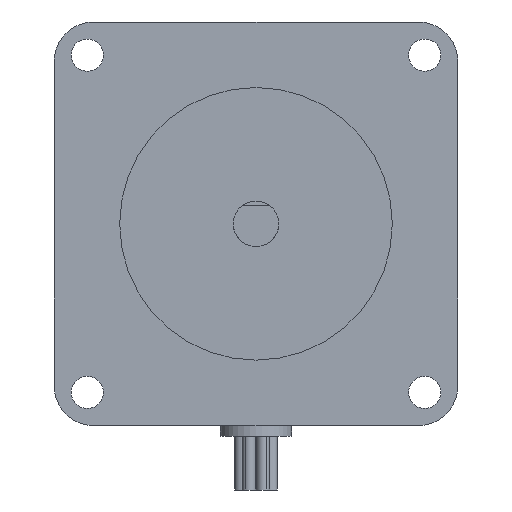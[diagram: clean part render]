
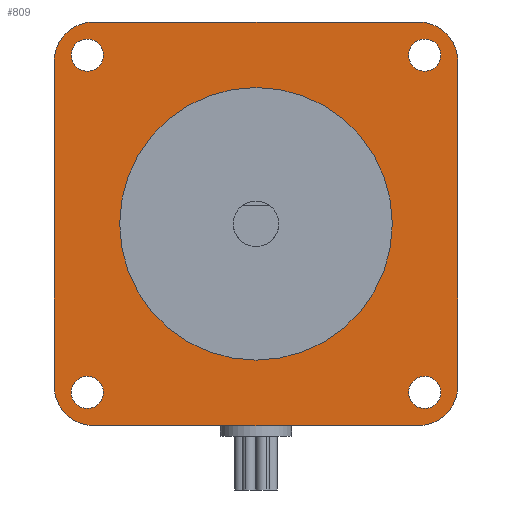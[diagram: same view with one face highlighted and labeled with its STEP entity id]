
A CAD part, front view. The second image highlights one B-rep face of the part: STEP entity #809.
In plain terms, the highlighted planar face has unit normal (0, -1, 0).
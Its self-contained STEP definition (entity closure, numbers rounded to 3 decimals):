
#150=CARTESIAN_POINT('POINT172396',(19.05,0.,0.));
#151=VERTEX_POINT('VERTEX172396',#150);
#158=CARTESIAN_POINT('POINT172397',(-19.05,0.,
   0.));
#159=VERTEX_POINT('VERTEX172397',#158);
#160=CARTESIAN_POINT('POS291731',(0.,0.,0.));
#161=DIRECTION('DIR435070',(0.,1.,0.));
#162=DIRECTION('DIR435071',(1.,0.,0.));
#163=AXIS2_PLACEMENT_3D('AXIS143340',#160,#161,#162);
#164=CIRCLE('ELLIPSE66097',#163,19.05);
#165=EDGE_CURVE('EDGE267006',#159,#151,#164,.T.);
#185=EDGE_CURVE('EDGE267008',#151,#159,#164,.T.);
#190=CARTESIAN_POINT('POINT172398',(-23.57,0.,
   -25.82));
#191=VERTEX_POINT('VERTEX172398',#190);
#200=CARTESIAN_POINT('POINT172400',(-23.57,0.,
   -21.32));
#201=VERTEX_POINT('VERTEX172400',#200);
#202=CARTESIAN_POINT('POS291735',(-23.57,0.,
   -23.57));
#203=DIRECTION('DIR435076',(0.,1.,0.));
#204=DIRECTION('DIR435077',(0.,0.,-1.));
#205=AXIS2_PLACEMENT_3D('AXIS143342',#202,#203,#204);
#206=CIRCLE('ELLIPSE66098',#205,2.25);
#207=EDGE_CURVE('EDGE267010',#201,#191,#206,.T.);
#236=EDGE_CURVE('EDGE267014',#191,#201,#206,.T.);
#241=CARTESIAN_POINT('POINT172402',(-25.82,0.,
   23.57));
#242=VERTEX_POINT('VERTEX172402',#241);
#251=CARTESIAN_POINT('POINT172404',(-21.32,0.,
   23.57));
#252=VERTEX_POINT('VERTEX172404',#251);
#253=CARTESIAN_POINT('POS291740',(-23.57,0.,
   23.57));
#254=DIRECTION('DIR435084',(0.,1.,0.));
#255=DIRECTION('DIR435085',(-1.,0.,0.));
#256=AXIS2_PLACEMENT_3D('AXIS143345',#253,#254,#255);
#257=CIRCLE('ELLIPSE66100',#256,2.25);
#258=EDGE_CURVE('EDGE267016',#252,#242,#257,.T.);
#287=EDGE_CURVE('EDGE267020',#242,#252,#257,.T.);
#292=CARTESIAN_POINT('POINT172406',(23.57,0.,
   25.82));
#293=VERTEX_POINT('VERTEX172406',#292);
#302=CARTESIAN_POINT('POINT172408',(23.57,0.,
   21.32));
#303=VERTEX_POINT('VERTEX172408',#302);
#304=CARTESIAN_POINT('POS291745',(23.57,0.,
   23.57));
#305=DIRECTION('DIR435092',(0.,1.,0.));
#306=DIRECTION('DIR435093',(0.,0.,1.));
#307=AXIS2_PLACEMENT_3D('AXIS143348',#304,#305,#306);
#308=CIRCLE('ELLIPSE66102',#307,2.25);
#309=EDGE_CURVE('EDGE267022',#303,#293,#308,.T.);
#338=EDGE_CURVE('EDGE267026',#293,#303,#308,.T.);
#343=CARTESIAN_POINT('POINT172410',(25.82,0.,
   -23.57));
#344=VERTEX_POINT('VERTEX172410',#343);
#362=CARTESIAN_POINT('POINT172413',(21.32,0.,
   -23.57));
#363=VERTEX_POINT('VERTEX172413',#362);
#370=CARTESIAN_POINT('POS291752',(23.57,0.,
   -23.57));
#371=DIRECTION('DIR435103',(0.,1.,0.));
#372=DIRECTION('DIR435104',(1.,0.,0.));
#373=AXIS2_PLACEMENT_3D('AXIS143352',#370,#371,#372);
#374=CIRCLE('ELLIPSE66105',#373,2.25);
#375=EDGE_CURVE('EDGE267030',#344,#363,#374,.T.);
#386=EDGE_CURVE('EDGE267031',#363,#344,#374,.T.);
#475=CARTESIAN_POINT('POINT172422',(22.7,0.,
   28.2));
#476=VERTEX_POINT('VERTEX172422',#475);
#483=CARTESIAN_POINT('POINT172423',(28.2,0.,
   22.7));
#484=VERTEX_POINT('VERTEX172423',#483);
#485=CARTESIAN_POINT('POS291764',(22.7,0.,
   22.7));
#486=DIRECTION('DIR435122',(0.,1.,0.));
#487=DIRECTION('DIR435123',(0.,0.,1.));
#488=AXIS2_PLACEMENT_3D('AXIS143359',#485,#486,#487);
#489=CIRCLE('ELLIPSE66110',#488,5.5);
#490=EDGE_CURVE('EDGE267042',#476,#484,#489,.T.);
#578=CARTESIAN_POINT('POINT172432',(-28.2,0.,
   22.7));
#579=VERTEX_POINT('VERTEX172432',#578);
#586=CARTESIAN_POINT('POINT172433',(-22.7,0.,
   28.2));
#587=VERTEX_POINT('VERTEX172433',#586);
#588=CARTESIAN_POINT('POS291775',(-22.7,0.,
   22.7));
#589=DIRECTION('DIR435139',(0.,1.,0.));
#590=DIRECTION('DIR435140',(-1.,0.,0.));
#591=AXIS2_PLACEMENT_3D('AXIS143365',#588,#589,#590);
#592=CIRCLE('ELLIPSE66115',#591,5.5);
#593=EDGE_CURVE('EDGE267053',#579,#587,#592,.T.);
#620=CARTESIAN_POINT('POINT172436',(28.2,0.,
   -22.7));
#621=VERTEX_POINT('VERTEX172436',#620);
#628=CARTESIAN_POINT('POINT172437',(22.7,0.,
   -28.2));
#629=VERTEX_POINT('VERTEX172437',#628);
#630=CARTESIAN_POINT('POS291780',(22.7,0.,
   -22.7));
#631=DIRECTION('DIR435147',(0.,1.,0.));
#632=DIRECTION('DIR435148',(1.,0.,0.));
#633=AXIS2_PLACEMENT_3D('AXIS143368',#630,#631,#632);
#634=CIRCLE('ELLIPSE66117',#633,5.5);
#635=EDGE_CURVE('EDGE267057',#621,#629,#634,.T.);
#723=CARTESIAN_POINT('POINT172446',(-22.7,0.,
   -28.2));
#724=VERTEX_POINT('VERTEX172446',#723);
#731=CARTESIAN_POINT('POINT172447',(-28.2,0.,
   -22.7));
#732=VERTEX_POINT('VERTEX172447',#731);
#733=CARTESIAN_POINT('POS291791',(-22.7,0.,
   -22.7));
#734=DIRECTION('DIR435164',(0.,1.,0.));
#735=DIRECTION('DIR435165',(0.,0.,-1.));
#736=AXIS2_PLACEMENT_3D('AXIS143374',#733,#734,#735);
#737=CIRCLE('ELLIPSE66122',#736,5.5);
#738=EDGE_CURVE('EDGE267068',#724,#732,#737,.T.);
#754=ORIENTED_EDGE('COEDGE534225',*,*,#338,.T.);
#755=ORIENTED_EDGE('COEDGE534226',*,*,#309,.T.);
#756=EDGE_LOOP('NONE',(#754,#755));
#757=FACE_BOUND('LOOP1',#756,.T.);
#758=ORIENTED_EDGE('COEDGE534227',*,*,#287,.T.);
#759=ORIENTED_EDGE('COEDGE534228',*,*,#258,.T.);
#760=EDGE_LOOP('NONE',(#758,#759));
#761=FACE_BOUND('LOOP1',#760,.T.);
#762=ORIENTED_EDGE('COEDGE534229',*,*,#236,.T.);
#763=ORIENTED_EDGE('COEDGE534230',*,*,#207,.T.);
#764=EDGE_LOOP('NONE',(#762,#763));
#765=FACE_BOUND('LOOP1',#764,.T.);
#766=ORIENTED_EDGE('COEDGE534231',*,*,#375,.T.);
#767=ORIENTED_EDGE('COEDGE534232',*,*,#386,.T.);
#768=EDGE_LOOP('NONE',(#766,#767));
#769=FACE_BOUND('LOOP1',#768,.T.);
#770=ORIENTED_EDGE('COEDGE534233',*,*,#185,.T.);
#771=ORIENTED_EDGE('COEDGE534234',*,*,#165,.T.);
#772=EDGE_LOOP('NONE',(#770,#771));
#773=FACE_BOUND('LOOP1',#772,.T.);
#774=CARTESIAN_POINT('POS291794',(28.2,0.,0.));
#775=DIRECTION('DIR435169',(0.,0.,-1.));
#776=VECTOR('VEC148419',#775,1.);
#777=LINE('STRAIGHT148419',#774,#776);
#778=EDGE_CURVE('EDGE267070',#484,#621,#777,.T.);
#779=ORIENTED_EDGE('COEDGE534235',*,*,#778,.F.);
#780=ORIENTED_EDGE('COEDGE534236',*,*,#490,.F.);
#781=CARTESIAN_POINT('POS291795',(-22.7,0.,
   28.2));
#782=DIRECTION('DIR435170',(1.,0.,0.));
#783=VECTOR('VEC148420',#782,1.);
#784=LINE('STRAIGHT148420',#781,#783);
#785=EDGE_CURVE('EDGE267071',#587,#476,#784,.T.);
#786=ORIENTED_EDGE('COEDGE534237',*,*,#785,.F.);
#787=ORIENTED_EDGE('COEDGE534238',*,*,#593,.F.);
#788=CARTESIAN_POINT('POS291796',(-28.2,0.,
   -22.7));
#789=DIRECTION('DIR435171',(0.,0.
   ,1.));
#790=VECTOR('VEC148421',#789,1.);
#791=LINE('STRAIGHT148421',#788,#790);
#792=EDGE_CURVE('EDGE267072',#732,#579,#791,.T.);
#793=ORIENTED_EDGE('COEDGE534239',*,*,#792,.F.);
#794=ORIENTED_EDGE('COEDGE534240',*,*,#738,.F.);
#795=CARTESIAN_POINT('POS291797',(22.7,0.,
   -28.2));
#796=DIRECTION('DIR435172',(-1.,0.,
   0.));
#797=VECTOR('VEC148422',#796,1.);
#798=LINE('STRAIGHT148422',#795,#797);
#799=EDGE_CURVE('EDGE267073',#629,#724,#798,.T.);
#800=ORIENTED_EDGE('COEDGE534241',*,*,#799,.F.);
#801=ORIENTED_EDGE('COEDGE534242',*,*,#635,.F.);
#802=EDGE_LOOP('NONE',(#779,#780,#786,#787,#793,#794,#800,#801));
#803=FACE_BOUND('LOOP1',#802,.T.);
#804=CARTESIAN_POINT('POS291798',(0.,
   0.,0.));
#805=DIRECTION('DIR435173',(0.,1.,0.));
#806=DIRECTION('DIR435174',(1.,0.,0.));
#807=AXIS2_PLACEMENT_3D('AXIS143376',#804,#805,#806);
#808=PLANE('PLANE43523',#807);
#809=ADVANCED_FACE('FACE106136',(#757,#761,#765,#769,#773,#803),#808,.F.
   );
